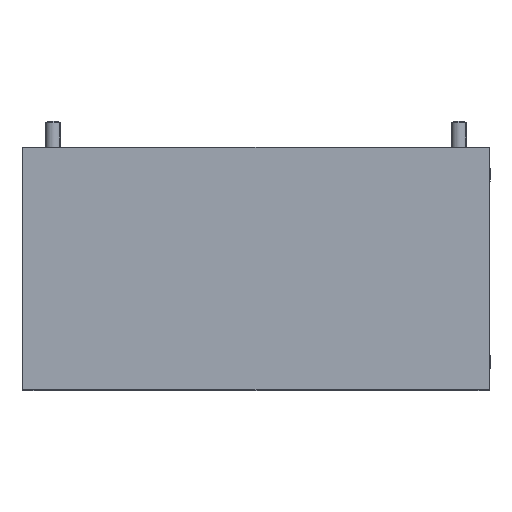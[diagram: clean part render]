
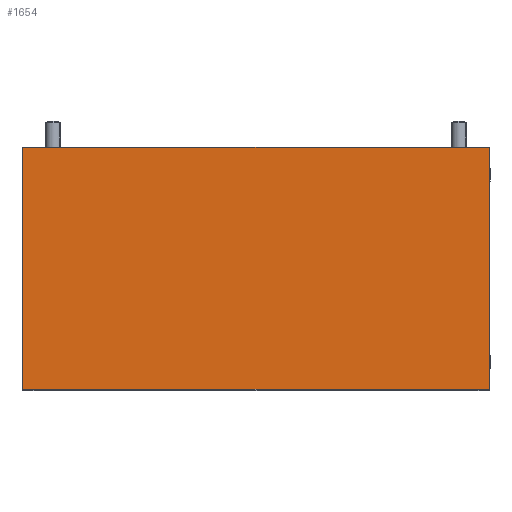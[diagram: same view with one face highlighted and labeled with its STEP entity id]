
A CAD part, top view. The second image highlights one B-rep face of the part: STEP entity #1654.
In plain terms, the highlighted planar face has unit normal (0, 0, 1) as drawn and (0, 0, -1) by its records, which use the part's own axes.
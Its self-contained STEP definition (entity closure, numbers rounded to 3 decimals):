
#273 = CARTESIAN_POINT ( 'NONE',  ( -192.75, 100., -2.5 ) ) ;
#1043 = ORIENTED_EDGE ( 'NONE', *, *, #6969, .F. ) ;
#1250 = VERTEX_POINT ( 'NONE', #7094 ) ;
#1378 = DIRECTION ( 'NONE',  ( 0., 0., -1. ) ) ;
#1401 = CARTESIAN_POINT ( 'NONE',  ( 192.75, 0., -2.5 ) ) ;
#1432 = ORIENTED_EDGE ( 'NONE', *, *, #2858, .F. ) ;
#1654 = ADVANCED_FACE ( 'NONE', ( #3493 ), #4633, .T. ) ;
#2648 = EDGE_CURVE ( 'NONE', #3009, #1250, #4654, .T. ) ;
#2673 = DIRECTION ( 'NONE',  ( -1., 0., 0. ) ) ;
#2858 = EDGE_CURVE ( 'NONE', #5590, #3009, #4905, .T. ) ;
#3009 = VERTEX_POINT ( 'NONE', #5241 ) ;
#3493 = FACE_OUTER_BOUND ( 'NONE', #5438, .T. ) ;
#3494 = ORIENTED_EDGE ( 'NONE', *, *, #9564, .F. ) ;
#3691 = CARTESIAN_POINT ( 'NONE',  ( 0., 0., -2.5 ) ) ;
#3986 = CARTESIAN_POINT ( 'NONE',  ( -192.75, -100., -2.5 ) ) ;
#4305 = CARTESIAN_POINT ( 'NONE',  ( 0., -100., -2.5 ) ) ;
#4633 = PLANE ( 'NONE',  #10488 ) ;
#4654 = LINE ( 'NONE', #1401, #9636 ) ;
#4905 = LINE ( 'NONE', #4305, #10910 ) ;
#5241 = CARTESIAN_POINT ( 'NONE',  ( 192.75, -100., -2.5 ) ) ;
#5308 = DIRECTION ( 'NONE',  ( 1., 0., 0. ) ) ;
#5438 = EDGE_LOOP ( 'NONE', ( #8449, #1432, #1043, #3494 ) ) ;
#5590 = VERTEX_POINT ( 'NONE', #3986 ) ;
#5740 = DIRECTION ( 'NONE',  ( 0., 1., 0. ) ) ;
#5876 = DIRECTION ( 'NONE',  ( -1., 0., 0. ) ) ;
#6969 = EDGE_CURVE ( 'NONE', #13468, #5590, #12351, .T. ) ;
#7094 = CARTESIAN_POINT ( 'NONE',  ( 192.75, 100., -2.5 ) ) ;
#7796 = LINE ( 'NONE', #11944, #13029 ) ;
#7990 = DIRECTION ( 'NONE',  ( 0., -1., 0. ) ) ;
#8449 = ORIENTED_EDGE ( 'NONE', *, *, #2648, .F. ) ;
#9564 = EDGE_CURVE ( 'NONE', #1250, #13468, #7796, .T. ) ;
#9636 = VECTOR ( 'NONE', #5740, 1000. ) ;
#10488 = AXIS2_PLACEMENT_3D ( 'NONE', #3691, #1378, #2673 ) ;
#10910 = VECTOR ( 'NONE', #5308, 1000. ) ;
#11944 = CARTESIAN_POINT ( 'NONE',  ( 0., 100., -2.5 ) ) ;
#12351 = LINE ( 'NONE', #13244, #13431 ) ;
#13029 = VECTOR ( 'NONE', #5876, 1000. ) ;
#13244 = CARTESIAN_POINT ( 'NONE',  ( -192.75, 0., -2.5 ) ) ;
#13431 = VECTOR ( 'NONE', #7990, 1000. ) ;
#13468 = VERTEX_POINT ( 'NONE', #273 ) ;
